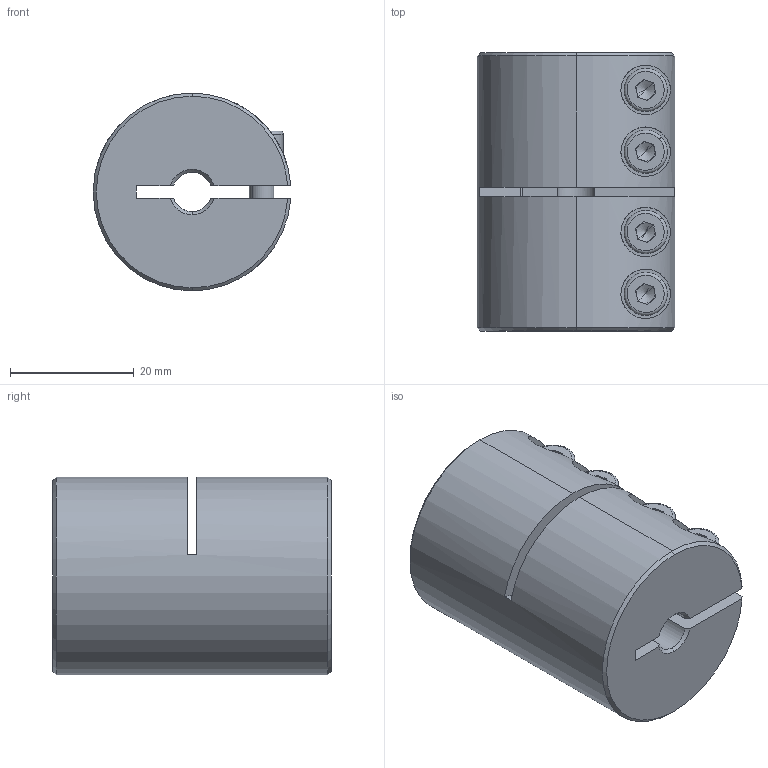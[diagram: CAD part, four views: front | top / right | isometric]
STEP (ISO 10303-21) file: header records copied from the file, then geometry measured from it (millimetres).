
FILE_DESCRIPTION (( 'STEP AP214' ), '1' );
FILE_NAME ('LL-B-D32L45-6.35-6.35½¨Ä£.STEP', '2022-07-21T06:46:16', ( '' ), ( '' ), 'SwSTEP 2.0', 'SolidWorks 2022', '' );
FILE_SCHEMA (( 'AUTOMOTIVE_DESIGN' ));
Length unit declared in the file: millimetre
Products named in the file (1): LL-B-D32L45-6.35-6.35膘耀
Bounding box: 31.97 x 45 x 32 mm (x, y, z)
Volume: 31817.7 mm3; surface area: 10698.3 mm2
Topology: 1 solids, 1 shells, 188 faces, 477 edges, 299 vertices
Faces by surface type: plane 86, cylinder 74, cone 20, torus 8
Entity records: 6186 total; most frequent: CARTESIAN_POINT 1553, DIRECTION 1006, ORIENTED_EDGE 938, EDGE_CURVE 469, AXIS2_PLACEMENT_3D 392, VERTEX_POINT 299, VECTOR 222, LINE 222
